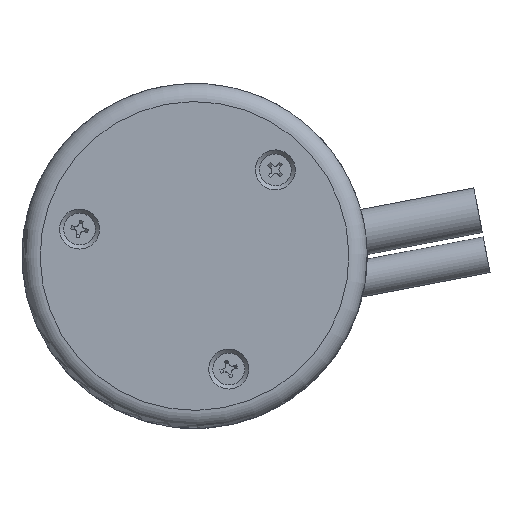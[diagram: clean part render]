
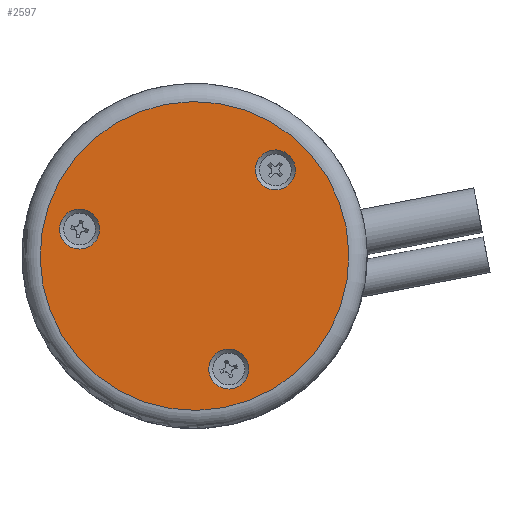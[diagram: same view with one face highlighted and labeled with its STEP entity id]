
A CAD part, front view. The second image highlights one B-rep face of the part: STEP entity #2597.
In plain terms, the highlighted planar face has unit normal (0, -1, 0).
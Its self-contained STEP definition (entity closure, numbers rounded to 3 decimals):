
#6 = CIRCLE ( 'NONE', #2299, 2.2 ) ;
#21 = EDGE_LOOP ( 'NONE', ( #31 ) ) ;
#31 = ORIENTED_EDGE ( 'NONE', *, *, #2600, .T. ) ;
#117 = FACE_OUTER_BOUND ( 'NONE', #21, .T. ) ;
#149 = ORIENTED_EDGE ( 'NONE', *, *, #5675, .F. ) ;
#257 = EDGE_LOOP ( 'NONE', ( #149 ) ) ;
#339 = DIRECTION ( 'NONE',  ( 0., -1., 0. ) ) ;
#426 = CIRCLE ( 'NONE', #1515, 2.2 ) ;
#553 = DIRECTION ( 'NONE',  ( 0., -1., 0. ) ) ;
#727 = DIRECTION ( 'NONE',  ( 1., 0., 0.014 ) ) ;
#729 = AXIS2_PLACEMENT_3D ( 'NONE', #4604, #339, #5558 ) ;
#909 = DIRECTION ( 'NONE',  ( 0., -1., 0. ) ) ;
#948 = CARTESIAN_POINT ( 'NONE',  ( -7.536, 0., 1.089 ) ) ;
#1231 = DIRECTION ( 'NONE',  ( 0., -1., 0. ) ) ;
#1332 = VERTEX_POINT ( 'NONE', #1887 ) ;
#1515 = AXIS2_PLACEMENT_3D ( 'NONE', #3257, #909, #5059 ) ;
#1770 = CARTESIAN_POINT ( 'NONE',  ( 3.498, 0., 13.746 ) ) ;
#1887 = CARTESIAN_POINT ( 'NONE',  ( -23.958, 0., 16.494 ) ) ;
#1964 = AXIS2_PLACEMENT_3D ( 'NONE', #3958, #3896, #2922 ) ;
#2078 = FACE_BOUND ( 'NONE', #3034, .T. ) ;
#2299 = AXIS2_PLACEMENT_3D ( 'NONE', #5961, #1231, #727 ) ;
#2382 = VERTEX_POINT ( 'NONE', #5800 ) ;
#2449 = FACE_BOUND ( 'NONE', #257, .T. ) ;
#2597 = ADVANCED_FACE ( 'NONE', ( #2449, #4788, #2078, #117 ), #3020, .T. ) ;
#2600 = EDGE_CURVE ( 'NONE', #5129, #5129, #5439, .T. ) ;
#2922 = DIRECTION ( 'NONE',  ( 1., 0., 0.014 ) ) ;
#3020 = PLANE ( 'NONE',  #1964 ) ;
#3034 = EDGE_LOOP ( 'NONE', ( #4149 ) ) ;
#3257 = CARTESIAN_POINT ( 'NONE',  ( -26.158, 0., 16.462 ) ) ;
#3370 = EDGE_CURVE ( 'NONE', #1332, #1332, #426, .T. ) ;
#3896 = DIRECTION ( 'NONE',  ( 0., -1., 0. ) ) ;
#3958 = CARTESIAN_POINT ( 'NONE',  ( -13.5, 0., 13.5 ) ) ;
#4149 = ORIENTED_EDGE ( 'NONE', *, *, #3370, .F. ) ;
#4164 = AXIS2_PLACEMENT_3D ( 'NONE', #5316, #553, #4384 ) ;
#4235 = EDGE_LOOP ( 'NONE', ( #4730 ) ) ;
#4361 = EDGE_CURVE ( 'NONE', #2382, #2382, #6, .T. ) ;
#4384 = DIRECTION ( 'NONE',  ( 1., 0., 0.014 ) ) ;
#4420 = CIRCLE ( 'NONE', #729, 2.2 ) ;
#4604 = CARTESIAN_POINT ( 'NONE',  ( -9.736, 0., 1.057 ) ) ;
#4730 = ORIENTED_EDGE ( 'NONE', *, *, #4361, .F. ) ;
#4780 = VERTEX_POINT ( 'NONE', #948 ) ;
#4788 = FACE_BOUND ( 'NONE', #4235, .T. ) ;
#5059 = DIRECTION ( 'NONE',  ( 1., 0., 0.014 ) ) ;
#5129 = VERTEX_POINT ( 'NONE', #1770 ) ;
#5316 = CARTESIAN_POINT ( 'NONE',  ( -13.5, 0., 13.5 ) ) ;
#5439 = CIRCLE ( 'NONE', #4164, 17. ) ;
#5558 = DIRECTION ( 'NONE',  ( 1., 0., 0.014 ) ) ;
#5675 = EDGE_CURVE ( 'NONE', #4780, #4780, #4420, .T. ) ;
#5800 = CARTESIAN_POINT ( 'NONE',  ( -2.406, 0., 23.013 ) ) ;
#5961 = CARTESIAN_POINT ( 'NONE',  ( -4.606, 0., 22.981 ) ) ;
